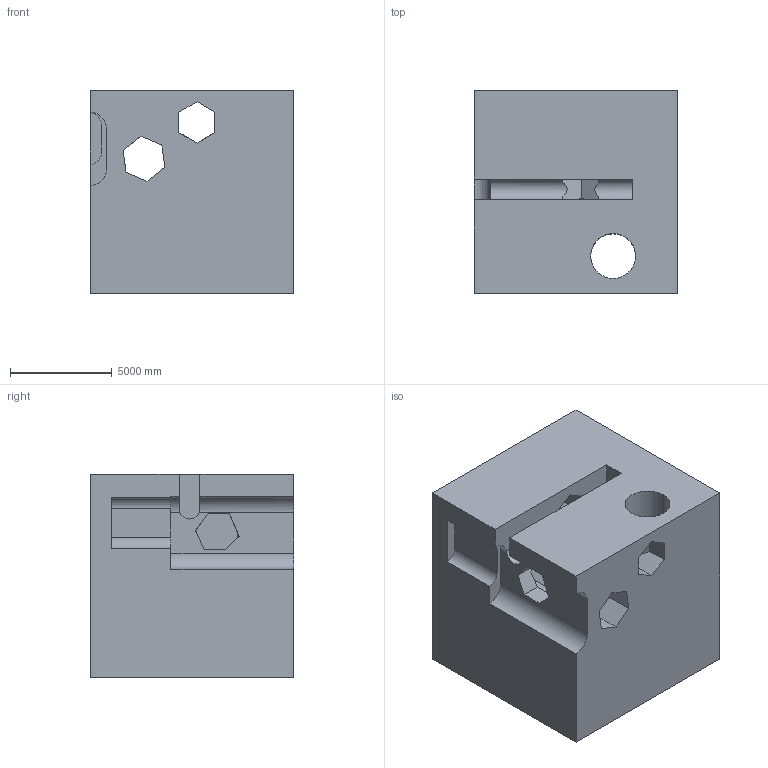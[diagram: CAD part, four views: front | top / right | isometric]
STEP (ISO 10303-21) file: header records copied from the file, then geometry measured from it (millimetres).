
FILE_DESCRIPTION (( 'STEP AP203' ), '1' );
FILE_NAME ('1770.STEP', '2022-08-26T13:24:09', ( 'user' ), ( '' ), 'SwSTEP 2.0', 'SolidWorks 2021', '' );
FILE_SCHEMA (( 'CONFIG_CONTROL_DESIGN' ));
Length unit declared in the file: centimetre
Products named in the file (1): 1770
Bounding box: 10000 x 10000 x 10000 mm (x, y, z)
Volume: 847873851824.3 mm3; surface area: 813603831 mm2
Topology: 1 solids, 1 shells, 57 faces, 189 edges, 126 vertices
Faces by surface type: plane 47, cylinder 10
Entity records: 2180 total; most frequent: CARTESIAN_POINT 427, ORIENTED_EDGE 378, DIRECTION 317, EDGE_CURVE 189, LINE 157, VECTOR 157, VERTEX_POINT 126, AXIS2_PLACEMENT_3D 80
